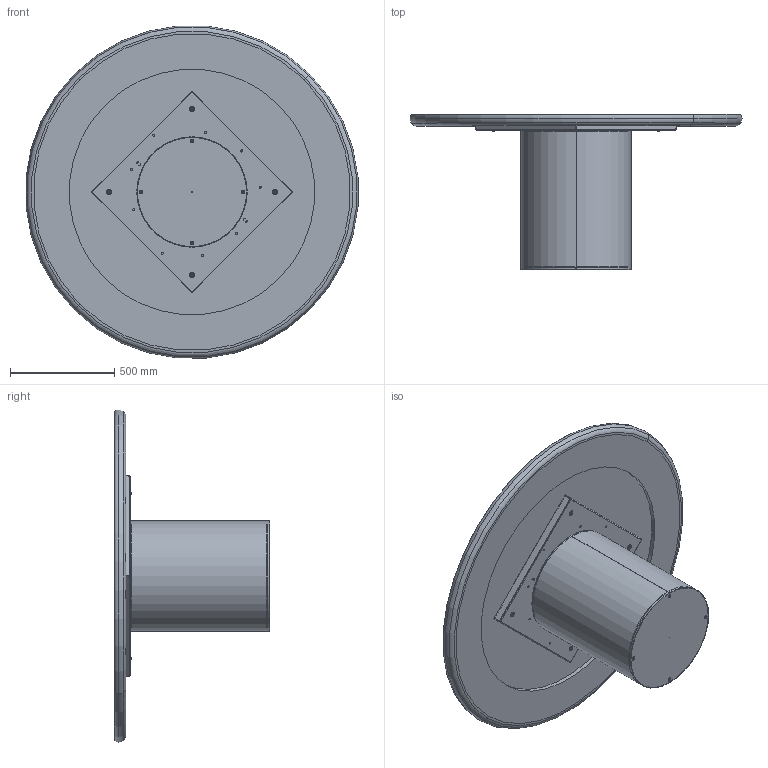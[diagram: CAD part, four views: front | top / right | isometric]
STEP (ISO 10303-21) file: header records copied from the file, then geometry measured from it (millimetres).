
FILE_DESCRIPTION (( 'STEP AP203' ), '1' );
FILE_NAME ('CI06K_Cilindro_d.160_King.STEP', '2024-07-31T13:13:00', ( '' ), ( '' ), 'SwSTEP 2.0', 'SolidWorks 2022', '' );
FILE_SCHEMA (( 'CONFIG_CONTROL_DESIGN' ));
Length unit declared in the file: millimetre
Products named in the file (14): M8xXXmm_hex_M8X20mm; CI06K_Cilindro_d.160_King; COLLO TELAIO UNIVERSALE TTAV0801 CON FERRAMENTA_MTG TOP LEGNO-MARMO-KING; K91-00-PIANO SOLO CERAMICA D.156.7cm X PIANO C BORDO; C2B000000_01-00-struttura cilindro D.530mm; TTAV0801-02-TELAIO UNIVERSALE TONDO; ASSIEME PIANO KING_PIANO+CERAMICA DIAM160; TTAV0801 TELAIO UNIVERSALE TONDO-PIASTRINA; W91-01-PIANO KING BORDO Ø160 SAGOMATO LACCATO; TTAV0801-02-TELAIO UNIVERSALE TONDO-VASSOIO; rondella M8_8X24; C2B000000_02-01-ZAVORRA IN FERRO D.530mm; C2B000000-03-CILINDRO BASE D.530mm_Normale; M8xXXmm_M8x55mm
Assembly tree (25 placements, depth 4):
  CI06K_Cilindro_d.160_King
    C2B000000-03-CILINDRO BASE D.530mm_Normale
      C2B000000_01-00-struttura cilindro D.530mm
      C2B000000_02-01-ZAVORRA IN FERRO D.530mm
      M8xXXmm_hex_M8X20mm  x4
    COLLO TELAIO UNIVERSALE TTAV0801 CON FERRAMENTA_MTG TOP LEGNO-MARMO-KING
      TTAV0801-02-TELAIO UNIVERSALE TONDO
        TTAV0801-02-TELAIO UNIVERSALE TONDO-VASSOIO
        TTAV0801 TELAIO UNIVERSALE TONDO-PIASTRINA  x4
      rondella M8_8X24  x4
      M8xXXmm_M8x55mm  x4
    ASSIEME PIANO KING_PIANO+CERAMICA DIAM160
      W91-01-PIANO KING BORDO Ø160 SAGOMATO LACCATO
      K91-00-PIANO SOLO CERAMICA D.156.7cm X PIANO C BORDO
Bounding box: 1593.91 x 746 x 1593.91 mm (x, y, z)
Volume: 95552815.5 mm3; surface area: 12339382.7 mm2
Topology: 24 solids, 24 shells, 878 faces, 2170 edges, 1326 vertices
Faces by surface type: plane 384, cylinder 330, cone 84, torus 66, sphere 14
Entity records: 17736 total; most frequent: DIRECTION 2934, CARTESIAN_POINT 2757, ORIENTED_EDGE 2626, EDGE_CURVE 1313, AXIS2_PLACEMENT_3D 1090, VERTEX_POINT 827, VECTOR 754, LINE 754
